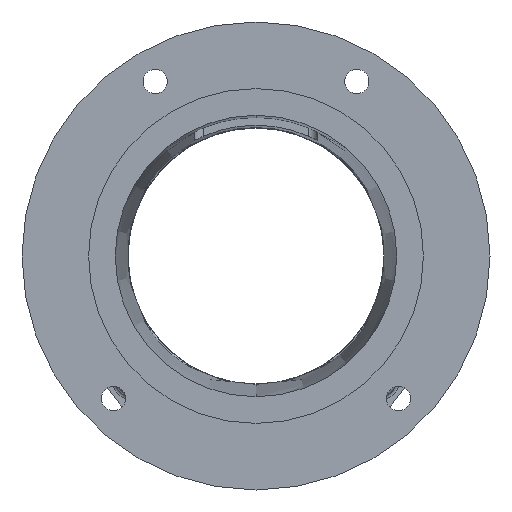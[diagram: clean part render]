
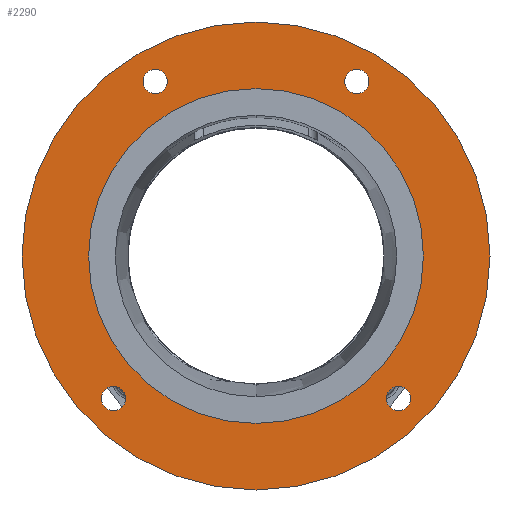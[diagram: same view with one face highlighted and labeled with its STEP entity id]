
A CAD part, front view. The second image highlights one B-rep face of the part: STEP entity #2290.
In plain terms, the highlighted planar face has unit normal (0, -1, 0).
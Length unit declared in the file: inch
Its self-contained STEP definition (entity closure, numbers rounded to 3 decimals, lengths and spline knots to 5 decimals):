
#3 = EDGE_CURVE ( 'NONE', #9337, #8546, #4308, .T. ) ;
#7 = CARTESIAN_POINT ( 'NONE',  ( 1.9375, 0., 3.35585 ) ) ;
#94 = FACE_BOUND ( 'NONE', #4046, .T. ) ;
#145 = ORIENTED_EDGE ( 'NONE', *, *, #7434, .F. ) ;
#529 = ORIENTED_EDGE ( 'NONE', *, *, #2397, .T. ) ;
#544 = AXIS2_PLACEMENT_3D ( 'NONE', #3239, #2842, #2813 ) ;
#553 = VERTEX_POINT ( 'NONE', #5235 ) ;
#724 = ORIENTED_EDGE ( 'NONE', *, *, #6249, .F. ) ;
#802 = AXIS2_PLACEMENT_3D ( 'NONE', #5795, #5789, #5762 ) ;
#946 = DIRECTION ( 'NONE',  ( 0., 0., -1. ) ) ;
#957 = DIRECTION ( 'NONE',  ( 0., -1., 0. ) ) ;
#962 = CARTESIAN_POINT ( 'NONE',  ( -2.74004, 0., -2.74004 ) ) ;
#970 = VERTEX_POINT ( 'NONE', #1878 ) ;
#1025 = VERTEX_POINT ( 'NONE', #1437 ) ;
#1040 = CIRCLE ( 'NONE', #6610, 0.23438 ) ;
#1069 = AXIS2_PLACEMENT_3D ( 'NONE', #962, #957, #946 ) ;
#1071 = CARTESIAN_POINT ( 'NONE',  ( 2.74004, 0., -2.74004 ) ) ;
#1093 = EDGE_CURVE ( 'NONE', #8516, #1025, #6373, .T. ) ;
#1211 = EDGE_CURVE ( 'NONE', #7622, #7784, #5947, .T. ) ;
#1437 = CARTESIAN_POINT ( 'NONE',  ( -2.74004, 0., -2.50566 ) ) ;
#1573 = EDGE_LOOP ( 'NONE', ( #5142, #2496 ) ) ;
#1675 = CARTESIAN_POINT ( 'NONE',  ( 0., 0., -4.5 ) ) ;
#1815 = VERTEX_POINT ( 'NONE', #3814 ) ;
#1817 = DIRECTION ( 'NONE',  ( 0., 0., -1. ) ) ;
#1878 = CARTESIAN_POINT ( 'NONE',  ( -1.9375, 0., 3.12147 ) ) ;
#1880 = FACE_BOUND ( 'NONE', #9131, .T. ) ;
#1907 = EDGE_CURVE ( 'NONE', #970, #1815, #4160, .T. ) ;
#2020 = VERTEX_POINT ( 'NONE', #5782 ) ;
#2265 = ORIENTED_EDGE ( 'NONE', *, *, #8638, .F. ) ;
#2281 = CARTESIAN_POINT ( 'NONE',  ( 1.9375, 0., 3.35585 ) ) ;
#2290 = ADVANCED_FACE ( 'NONE', ( #3826, #94, #1880, #9257, #7428, #5850 ), #3096, .F. ) ;
#2297 = CARTESIAN_POINT ( 'NONE',  ( 1.9375, 0., 3.59022 ) ) ;
#2361 = CIRCLE ( 'NONE', #3669, 0.23438 ) ;
#2397 = EDGE_CURVE ( 'NONE', #8546, #9337, #7022, .T. ) ;
#2445 = ORIENTED_EDGE ( 'NONE', *, *, #3569, .F. ) ;
#2496 = ORIENTED_EDGE ( 'NONE', *, *, #8373, .F. ) ;
#2499 = DIRECTION ( 'NONE',  ( 0., 0., -1. ) ) ;
#2508 = DIRECTION ( 'NONE',  ( 0., -1., 0. ) ) ;
#2513 = CARTESIAN_POINT ( 'NONE',  ( 0., 0., 0. ) ) ;
#2720 = CARTESIAN_POINT ( 'NONE',  ( 0., 0., 3.2195 ) ) ;
#2813 = DIRECTION ( 'NONE',  ( 0., 0., -1. ) ) ;
#2842 = DIRECTION ( 'NONE',  ( 0., -1., 0. ) ) ;
#3019 = DIRECTION ( 'NONE',  ( 0., 0., -1. ) ) ;
#3038 = AXIS2_PLACEMENT_3D ( 'NONE', #7, #9379, #9362 ) ;
#3066 = DIRECTION ( 'NONE',  ( 0., 0., 1. ) ) ;
#3082 = DIRECTION ( 'NONE',  ( 0., 1., 0. ) ) ;
#3096 = PLANE ( 'NONE',  #4115 ) ;
#3142 = CARTESIAN_POINT ( 'NONE',  ( -4.5, 0., 0. ) ) ;
#3239 = CARTESIAN_POINT ( 'NONE',  ( 0., 0., 0. ) ) ;
#3569 = EDGE_CURVE ( 'NONE', #2020, #7788, #1040, .T. ) ;
#3664 = EDGE_LOOP ( 'NONE', ( #724, #5573 ) ) ;
#3669 = AXIS2_PLACEMENT_3D ( 'NONE', #2281, #7361, #3019 ) ;
#3781 = ORIENTED_EDGE ( 'NONE', *, *, #1211, .F. ) ;
#3814 = CARTESIAN_POINT ( 'NONE',  ( -1.9375, 0., 3.59022 ) ) ;
#3826 = FACE_BOUND ( 'NONE', #1573, .T. ) ;
#3977 = CARTESIAN_POINT ( 'NONE',  ( 1.9375, 0., 3.12147 ) ) ;
#4046 = EDGE_LOOP ( 'NONE', ( #145, #3781 ) ) ;
#4115 = AXIS2_PLACEMENT_3D ( 'NONE', #3142, #3082, #3066 ) ;
#4121 = DIRECTION ( 'NONE',  ( 0., -1., 0. ) ) ;
#4160 = CIRCLE ( 'NONE', #4480, 0.23438 ) ;
#4308 = CIRCLE ( 'NONE', #802, 4.5 ) ;
#4318 = CARTESIAN_POINT ( 'NONE',  ( -2.74004, 0., -2.97441 ) ) ;
#4480 = AXIS2_PLACEMENT_3D ( 'NONE', #6667, #6655, #6650 ) ;
#4685 = DIRECTION ( 'NONE',  ( 0., 0., -1. ) ) ;
#4696 = DIRECTION ( 'NONE',  ( 0., -1., 0. ) ) ;
#4715 = CARTESIAN_POINT ( 'NONE',  ( -2.74004, 0., -2.74004 ) ) ;
#4733 = CARTESIAN_POINT ( 'NONE',  ( 2.74004, 0., -2.50566 ) ) ;
#4787 = EDGE_CURVE ( 'NONE', #7502, #553, #5116, .T. ) ;
#4942 = ORIENTED_EDGE ( 'NONE', *, *, #3, .T. ) ;
#5116 = CIRCLE ( 'NONE', #544, 3.2195 ) ;
#5137 = AXIS2_PLACEMENT_3D ( 'NONE', #8387, #4121, #9064 ) ;
#5142 = ORIENTED_EDGE ( 'NONE', *, *, #1907, .F. ) ;
#5235 = CARTESIAN_POINT ( 'NONE',  ( 0., 0., -3.2195 ) ) ;
#5455 = AXIS2_PLACEMENT_3D ( 'NONE', #1071, #6260, #1817 ) ;
#5542 = EDGE_CURVE ( 'NONE', #1025, #8516, #8043, .T. ) ;
#5573 = ORIENTED_EDGE ( 'NONE', *, *, #4787, .F. ) ;
#5728 = DIRECTION ( 'NONE',  ( 0., 0., -1. ) ) ;
#5761 = DIRECTION ( 'NONE',  ( 0., -1., 0. ) ) ;
#5762 = DIRECTION ( 'NONE',  ( 0., 0., -1. ) ) ;
#5782 = CARTESIAN_POINT ( 'NONE',  ( 2.74004, 0., -2.97441 ) ) ;
#5788 = CARTESIAN_POINT ( 'NONE',  ( 0., 0., 0. ) ) ;
#5789 = DIRECTION ( 'NONE',  ( 0., -1., 0. ) ) ;
#5795 = CARTESIAN_POINT ( 'NONE',  ( 0., 0., 0. ) ) ;
#5850 = FACE_OUTER_BOUND ( 'NONE', #5891, .T. ) ;
#5891 = EDGE_LOOP ( 'NONE', ( #529, #4942 ) ) ;
#5947 = CIRCLE ( 'NONE', #3038, 0.23438 ) ;
#6089 = DIRECTION ( 'NONE',  ( 0., 0., -1. ) ) ;
#6117 = DIRECTION ( 'NONE',  ( 0., -1., 0. ) ) ;
#6148 = CARTESIAN_POINT ( 'NONE',  ( 2.74004, 0., -2.74004 ) ) ;
#6229 = EDGE_LOOP ( 'NONE', ( #7151, #8573 ) ) ;
#6249 = EDGE_CURVE ( 'NONE', #553, #7502, #6455, .T. ) ;
#6260 = DIRECTION ( 'NONE',  ( 0., -1., 0. ) ) ;
#6373 = CIRCLE ( 'NONE', #1069, 0.23438 ) ;
#6455 = CIRCLE ( 'NONE', #8557, 3.2195 ) ;
#6583 = AXIS2_PLACEMENT_3D ( 'NONE', #2513, #2508, #2499 ) ;
#6610 = AXIS2_PLACEMENT_3D ( 'NONE', #6148, #6117, #6089 ) ;
#6650 = DIRECTION ( 'NONE',  ( 0., 0., -1. ) ) ;
#6655 = DIRECTION ( 'NONE',  ( 0., -1., 0. ) ) ;
#6667 = CARTESIAN_POINT ( 'NONE',  ( -1.9375, 0., 3.35585 ) ) ;
#7022 = CIRCLE ( 'NONE', #6583, 4.5 ) ;
#7065 = AXIS2_PLACEMENT_3D ( 'NONE', #4715, #4696, #4685 ) ;
#7151 = ORIENTED_EDGE ( 'NONE', *, *, #1093, .F. ) ;
#7339 = CIRCLE ( 'NONE', #5455, 0.23438 ) ;
#7361 = DIRECTION ( 'NONE',  ( 0., -1., 0. ) ) ;
#7428 = FACE_BOUND ( 'NONE', #3664, .T. ) ;
#7434 = EDGE_CURVE ( 'NONE', #7784, #7622, #2361, .T. ) ;
#7502 = VERTEX_POINT ( 'NONE', #2720 ) ;
#7622 = VERTEX_POINT ( 'NONE', #2297 ) ;
#7784 = VERTEX_POINT ( 'NONE', #3977 ) ;
#7788 = VERTEX_POINT ( 'NONE', #4733 ) ;
#8043 = CIRCLE ( 'NONE', #7065, 0.23438 ) ;
#8072 = CARTESIAN_POINT ( 'NONE',  ( 0., 0., 4.5 ) ) ;
#8373 = EDGE_CURVE ( 'NONE', #1815, #970, #8836, .T. ) ;
#8387 = CARTESIAN_POINT ( 'NONE',  ( -1.9375, 0., 3.35585 ) ) ;
#8516 = VERTEX_POINT ( 'NONE', #4318 ) ;
#8546 = VERTEX_POINT ( 'NONE', #1675 ) ;
#8557 = AXIS2_PLACEMENT_3D ( 'NONE', #5788, #5761, #5728 ) ;
#8573 = ORIENTED_EDGE ( 'NONE', *, *, #5542, .F. ) ;
#8638 = EDGE_CURVE ( 'NONE', #7788, #2020, #7339, .T. ) ;
#8836 = CIRCLE ( 'NONE', #5137, 0.23438 ) ;
#9064 = DIRECTION ( 'NONE',  ( 0., 0., -1. ) ) ;
#9131 = EDGE_LOOP ( 'NONE', ( #2445, #2265 ) ) ;
#9257 = FACE_BOUND ( 'NONE', #6229, .T. ) ;
#9337 = VERTEX_POINT ( 'NONE', #8072 ) ;
#9362 = DIRECTION ( 'NONE',  ( 0., 0., -1. ) ) ;
#9379 = DIRECTION ( 'NONE',  ( 0., -1., 0. ) ) ;
